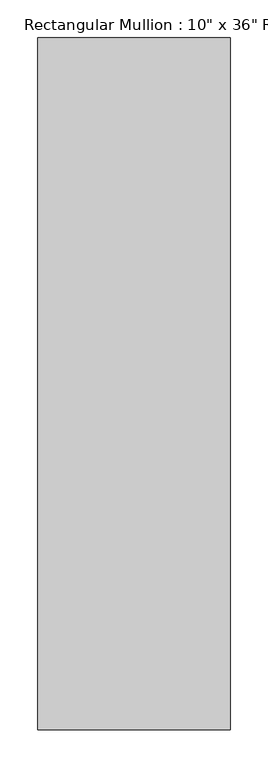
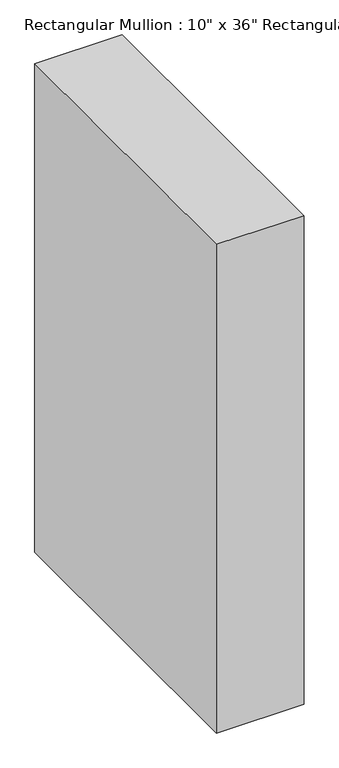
"""IFC4 building model written with IfcOpenShell, lengths in millimetres: member geometry."""

from ifc_helpers import new_model, si_unit, frame, origin, place, context, project, spatial, polyline, outline, extrude, source, transform, mapped, element, save


def member_a6654328(model_context):
    return source(origin(), model_context, "Body", "SweptSolid", [
        extrude(outline(polyline([(0.0, 850.9), (0.0, -63.5), (-254.0, -63.5), (-254.0, 850.9), (0.0, 850.9)])), frame((0.0, 0.0, -1500.0), z_axis=(0.0, 0.0, 1.0), x_axis=(1.0, 0.0, 0.0)), (0.0, 0.0, 1.0), 1500.0),
    ])


if __name__ == "__main__":
    model = new_model("IFC4")
    model_context = context("Model", 3, world=origin())
    ifc_project = project(units=[si_unit("LENGTHUNIT", "METRE", prefix="MILLI")], contexts=[model_context])
    site = spatial("IfcSite", under=ifc_project)
    building = spatial("IfcBuilding", under=site)
    placement = place(None, origin())
    member_shape = member_a6654328(model_context)
    element("IfcMember", 1, ObjectType="Rectangular Mullion : 10\" x 36\" Rectangular", at=placement, inside=building, context=model_context, shape_type="MappedRepresentation", body=[
        mapped(member_shape, transform((0.0, 0.0, 0.0), x_axis=(1.0, 0.0, 0.0), y_axis=(0.0, 1.0, 0.0), z_axis=(0.0, 0.0, 1.0))),
    ])
    save(model, "model.ifc")
